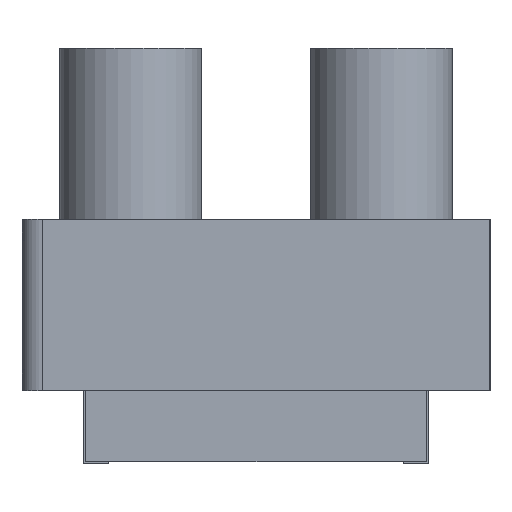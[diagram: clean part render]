
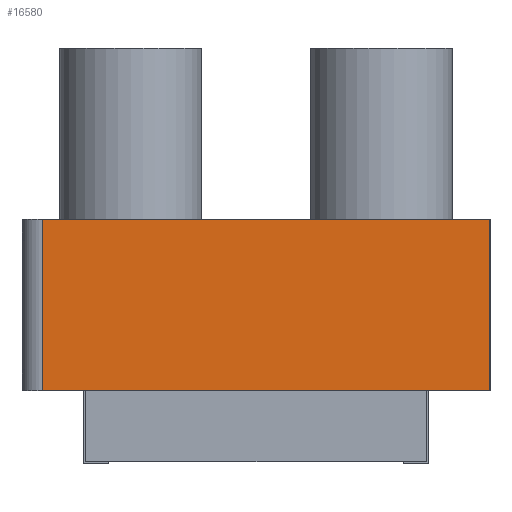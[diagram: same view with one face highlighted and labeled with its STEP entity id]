
A CAD part, left-side view. The second image highlights one B-rep face of the part: STEP entity #16580.
In plain terms, the highlighted planar face has unit normal (-1, 0, 0).
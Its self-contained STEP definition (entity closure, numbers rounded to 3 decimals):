
#2622=ORIENTED_EDGE('',*,*,#6950,.T.);
#2623=ORIENTED_EDGE('',*,*,#6951,.T.);
#2624=ORIENTED_EDGE('',*,*,#6943,.T.);
#2625=ORIENTED_EDGE('',*,*,#6952,.F.);
#6943=EDGE_CURVE('',#9014,#9015,#10753,.T.);
#6950=EDGE_CURVE('',#9020,#9021,#10760,.F.);
#6951=EDGE_CURVE('',#9021,#9014,#10761,.T.);
#6952=EDGE_CURVE('',#9020,#9015,#10762,.T.);
#9014=VERTEX_POINT('',#26146);
#9015=VERTEX_POINT('',#26147);
#9020=VERTEX_POINT('',#26160);
#9021=VERTEX_POINT('',#26161);
#10753=LINE('',#26145,#12633);
#10760=LINE('',#26159,#12640);
#10761=LINE('',#26162,#12641);
#10762=LINE('',#26163,#12642);
#12633=VECTOR('',#20667,1000.);
#12640=VECTOR('',#20676,1000.);
#12641=VECTOR('',#20677,1000.);
#12642=VECTOR('',#20678,1000.);
#13660=EDGE_LOOP('',(#2622,#2623,#2624,#2625));
#14770=FACE_BOUND('',#13660,.T.);
#15796=PLANE('',#17659);
#16580=ADVANCED_FACE('',(#14770),#15796,.F.);
#17659=AXIS2_PLACEMENT_3D('',#26158,#20674,#20675);
#20667=DIRECTION('',(0.,0.,1.));
#20674=DIRECTION('',(1.,0.,0.));
#20675=DIRECTION('',(0.,0.,-1.));
#20676=DIRECTION('',(0.,0.,1.));
#20677=DIRECTION('',(0.,-1.,0.));
#20678=DIRECTION('',(0.,-1.,0.));
#26145=CARTESIAN_POINT('',(-3.8,0.,-4.1));
#26146=CARTESIAN_POINT('',(-3.8,0.,-4.1));
#26147=CARTESIAN_POINT('',(-3.8,0.,4.1));
#26158=CARTESIAN_POINT('',(-3.8,22.4,-4.1));
#26159=CARTESIAN_POINT('',(-3.8,21.4,-4.1));
#26160=CARTESIAN_POINT('',(-3.8,21.4,4.1));
#26161=CARTESIAN_POINT('',(-3.8,21.4,-4.1));
#26162=CARTESIAN_POINT('',(-3.8,22.4,-4.1));
#26163=CARTESIAN_POINT('',(-3.8,22.4,4.1));
